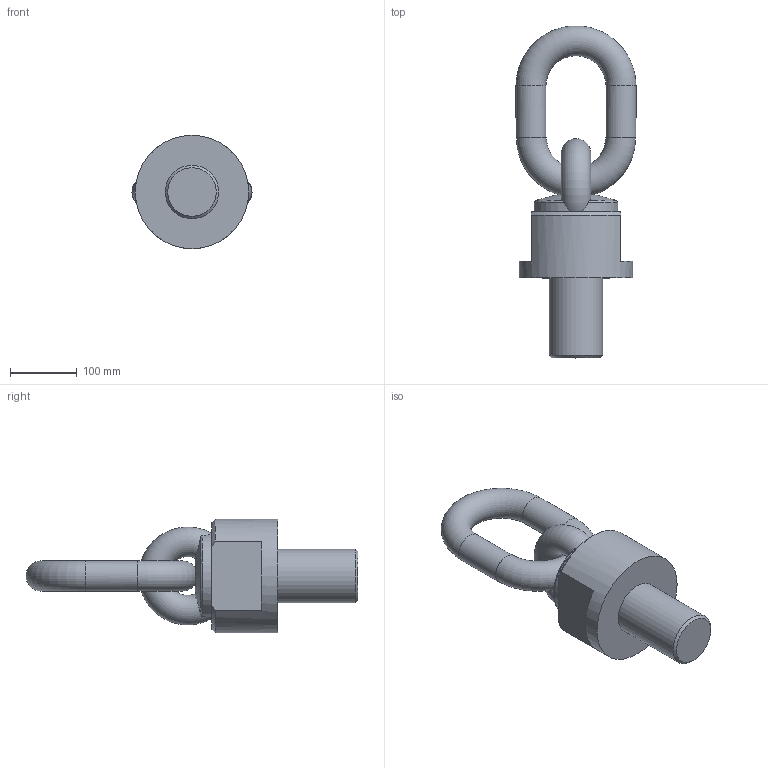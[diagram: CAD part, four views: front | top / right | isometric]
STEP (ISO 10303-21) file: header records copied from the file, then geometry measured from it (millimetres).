
FILE_DESCRIPTION( ( 'STEP AP203' ), '1' );
FILE_NAME( 'p:/temp/worker_15/temp/app_56_0201906261458382290768610e898ce_000000_00_00_000000/format_0/C800X35080120.stp', '2019-06-26T12:58:38', ( '' ), ( '' ), ' ', 'PARTsolutions', ' ' );
FILE_SCHEMA( ( 'CONFIG_CONTROL_DESIGN' ) );
Length unit declared in the file: millimetre
Products named in the file (1): _C800X35080120
Bounding box: 180 x 497.71 x 170 mm (x, y, z)
Volume: 4141281.4 mm3; surface area: 235948 mm2
Topology: 1 solids, 1 shells, 28 faces, 70 edges, 44 vertices
Faces by surface type: plane 12, cylinder 6, torus 5, cone 5
Full cylindrical faces by diameter (mm): 45 x2, 80 x1, 170 x1
Entity records: 1289 total; most frequent: CARTESIAN_POINT 639, DIRECTION 122, ORIENTED_EDGE 116, EDGE_CURVE 58, AXIS2_PLACEMENT_3D 57, EDGE_LOOP 42, VERTEX_POINT 41, FACE_OUTER_BOUND 35
